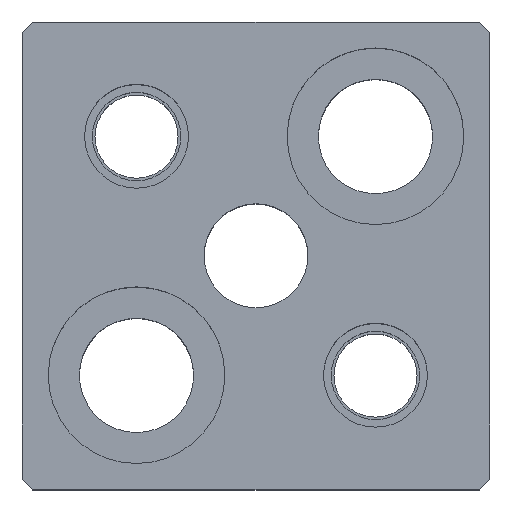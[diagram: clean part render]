
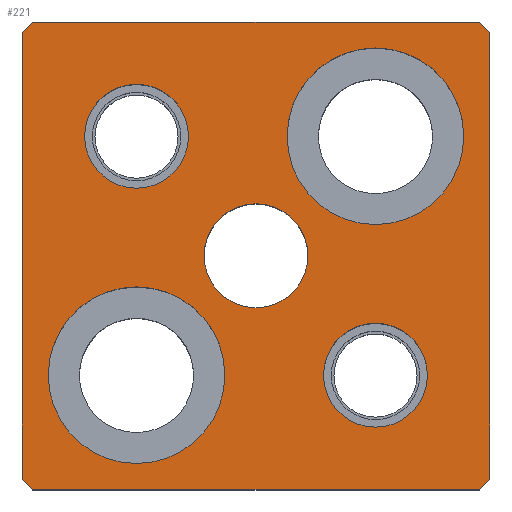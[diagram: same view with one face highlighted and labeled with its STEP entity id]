
A CAD part, top view. The second image highlights one B-rep face of the part: STEP entity #221.
In plain terms, the highlighted planar face has unit normal (0, 0, 1).
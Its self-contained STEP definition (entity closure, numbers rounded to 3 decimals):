
#103=FACE_BOUND('',#329,.T.);
#104=FACE_BOUND('',#330,.T.);
#105=FACE_BOUND('',#331,.T.);
#106=FACE_BOUND('',#332,.T.);
#107=FACE_BOUND('',#333,.T.);
#108=FACE_BOUND('',#334,.T.);
#157=CIRCLE('',#928,8.5);
#159=CIRCLE('',#931,8.5);
#161=CIRCLE('',#935,8.5);
#163=CIRCLE('',#938,8.5);
#165=CIRCLE('',#942,5.);
#166=CIRCLE('',#943,5.);
#167=CIRCLE('',#944,5.);
#168=CIRCLE('',#945,5.);
#169=CIRCLE('',#946,5.);
#170=CIRCLE('',#947,5.);
#221=ADVANCED_FACE('',(#103,#104,#105,#106,#107,#108),#260,.T.);
#260=PLANE('',#948);
#329=EDGE_LOOP('',(#469,#470,#471,#472,#473,#474,#475,#476));
#330=EDGE_LOOP('',(#477,#478));
#331=EDGE_LOOP('',(#479,#480));
#332=EDGE_LOOP('',(#481,#482));
#333=EDGE_LOOP('',(#483,#484));
#334=EDGE_LOOP('',(#485,#486));
#469=ORIENTED_EDGE('',*,*,#683,.T.);
#470=ORIENTED_EDGE('',*,*,#680,.T.);
#471=ORIENTED_EDGE('',*,*,#698,.T.);
#472=ORIENTED_EDGE('',*,*,#695,.T.);
#473=ORIENTED_EDGE('',*,*,#692,.T.);
#474=ORIENTED_EDGE('',*,*,#676,.T.);
#475=ORIENTED_EDGE('',*,*,#673,.T.);
#476=ORIENTED_EDGE('',*,*,#669,.T.);
#477=ORIENTED_EDGE('',*,*,#727,.F.);
#478=ORIENTED_EDGE('',*,*,#728,.F.);
#479=ORIENTED_EDGE('',*,*,#729,.F.);
#480=ORIENTED_EDGE('',*,*,#730,.F.);
#481=ORIENTED_EDGE('',*,*,#725,.F.);
#482=ORIENTED_EDGE('',*,*,#721,.F.);
#483=ORIENTED_EDGE('',*,*,#719,.F.);
#484=ORIENTED_EDGE('',*,*,#715,.F.);
#485=ORIENTED_EDGE('',*,*,#731,.T.);
#486=ORIENTED_EDGE('',*,*,#732,.T.);
#595=VERTEX_POINT('',#1264);
#596=VERTEX_POINT('',#1266);
#599=VERTEX_POINT('',#1274);
#601=VERTEX_POINT('',#1280);
#604=VERTEX_POINT('',#1287);
#605=VERTEX_POINT('',#1289);
#612=VERTEX_POINT('',#1312);
#614=VERTEX_POINT('',#1318);
#625=VERTEX_POINT('',#1357);
#626=VERTEX_POINT('',#1358);
#629=VERTEX_POINT('',#1370);
#630=VERTEX_POINT('',#1371);
#633=VERTEX_POINT('',#1383);
#634=VERTEX_POINT('',#1384);
#635=VERTEX_POINT('',#1387);
#636=VERTEX_POINT('',#1388);
#637=VERTEX_POINT('',#1391);
#638=VERTEX_POINT('',#1392);
#669=EDGE_CURVE('',#596,#595,#781,.T.);
#673=EDGE_CURVE('',#599,#596,#785,.T.);
#676=EDGE_CURVE('',#601,#599,#788,.T.);
#680=EDGE_CURVE('',#605,#604,#792,.T.);
#683=EDGE_CURVE('',#595,#605,#795,.T.);
#692=EDGE_CURVE('',#612,#601,#804,.T.);
#695=EDGE_CURVE('',#614,#612,#807,.T.);
#698=EDGE_CURVE('',#604,#614,#810,.T.);
#715=EDGE_CURVE('',#625,#626,#157,.T.);
#719=EDGE_CURVE('',#626,#625,#159,.T.);
#721=EDGE_CURVE('',#629,#630,#161,.T.);
#725=EDGE_CURVE('',#630,#629,#163,.T.);
#727=EDGE_CURVE('',#633,#634,#165,.T.);
#728=EDGE_CURVE('',#634,#633,#166,.T.);
#729=EDGE_CURVE('',#635,#636,#167,.T.);
#730=EDGE_CURVE('',#636,#635,#168,.T.);
#731=EDGE_CURVE('',#637,#638,#169,.T.);
#732=EDGE_CURVE('',#638,#637,#170,.T.);
#781=LINE('',#1265,#843);
#785=LINE('',#1273,#847);
#788=LINE('',#1279,#850);
#792=LINE('',#1288,#854);
#795=LINE('',#1294,#857);
#804=LINE('',#1311,#866);
#807=LINE('',#1317,#869);
#810=LINE('',#1323,#872);
#843=VECTOR('',#1005,1.);
#847=VECTOR('',#1011,1.);
#850=VECTOR('',#1016,1.);
#854=VECTOR('',#1022,1.);
#857=VECTOR('',#1027,1.);
#866=VECTOR('',#1042,1.);
#869=VECTOR('',#1047,1.);
#872=VECTOR('',#1052,1.);
#928=AXIS2_PLACEMENT_3D('',#1356,#1091,#1092);
#931=AXIS2_PLACEMENT_3D('',#1365,#1099,#1100);
#935=AXIS2_PLACEMENT_3D('',#1369,#1107,#1108);
#938=AXIS2_PLACEMENT_3D('',#1378,#1115,#1116);
#942=AXIS2_PLACEMENT_3D('',#1382,#1123,#1124);
#943=AXIS2_PLACEMENT_3D('',#1385,#1125,#1126);
#944=AXIS2_PLACEMENT_3D('',#1386,#1127,#1128);
#945=AXIS2_PLACEMENT_3D('',#1389,#1129,#1130);
#946=AXIS2_PLACEMENT_3D('',#1390,#1131,#1132);
#947=AXIS2_PLACEMENT_3D('',#1393,#1133,#1134);
#948=AXIS2_PLACEMENT_3D('',#1394,#1135,#1136);
#1005=DIRECTION('',(1.,0.,0.));
#1011=DIRECTION('',(0.707,-0.707,0.));
#1016=DIRECTION('',(0.,-1.,0.));
#1022=DIRECTION('',(0.,1.,0.));
#1027=DIRECTION('',(0.707,0.707,0.));
#1042=DIRECTION('',(-0.707,-0.707,0.));
#1047=DIRECTION('',(-1.,0.,0.));
#1052=DIRECTION('',(-0.707,0.707,0.));
#1091=DIRECTION('',(0.,0.,1.));
#1092=DIRECTION('',(-1.,0.,0.));
#1099=DIRECTION('',(0.,0.,1.));
#1100=DIRECTION('',(1.,0.,0.));
#1107=DIRECTION('',(0.,0.,1.));
#1108=DIRECTION('',(-1.,0.,0.));
#1115=DIRECTION('',(0.,0.,1.));
#1116=DIRECTION('',(1.,0.,0.));
#1123=DIRECTION('',(0.,0.,1.));
#1124=DIRECTION('',(1.,0.,0.));
#1125=DIRECTION('',(0.,0.,1.));
#1126=DIRECTION('',(-1.,0.,0.));
#1127=DIRECTION('',(0.,0.,1.));
#1128=DIRECTION('',(1.,0.,0.));
#1129=DIRECTION('',(0.,0.,1.));
#1130=DIRECTION('',(-1.,0.,0.));
#1131=DIRECTION('',(0.,0.,-1.));
#1132=DIRECTION('',(-1.,0.,0.));
#1133=DIRECTION('',(0.,0.,-1.));
#1134=DIRECTION('',(1.,0.,0.));
#1135=DIRECTION('',(0.,0.,1.));
#1136=DIRECTION('',(-1.,0.,0.));
#1264=CARTESIAN_POINT('',(21.5,-22.5,30.));
#1265=CARTESIAN_POINT('',(-21.5,-22.5,30.));
#1266=CARTESIAN_POINT('',(-21.5,-22.5,30.));
#1273=CARTESIAN_POINT('',(-21.5,-22.5,30.));
#1274=CARTESIAN_POINT('',(-22.5,-21.5,30.));
#1279=CARTESIAN_POINT('',(-22.5,21.5,30.));
#1280=CARTESIAN_POINT('',(-22.5,21.5,30.));
#1287=CARTESIAN_POINT('',(22.5,21.5,30.));
#1288=CARTESIAN_POINT('',(22.5,21.5,30.));
#1289=CARTESIAN_POINT('',(22.5,-21.5,30.));
#1294=CARTESIAN_POINT('',(22.5,-21.5,30.));
#1311=CARTESIAN_POINT('',(-22.5,21.5,30.));
#1312=CARTESIAN_POINT('',(-21.5,22.5,30.));
#1317=CARTESIAN_POINT('',(-21.5,22.5,30.));
#1318=CARTESIAN_POINT('',(21.5,22.5,30.));
#1323=CARTESIAN_POINT('',(21.5,22.5,30.));
#1356=CARTESIAN_POINT('',(-11.5,-11.5,30.));
#1357=CARTESIAN_POINT('',(-11.5,-20.,30.));
#1358=CARTESIAN_POINT('',(-11.5,-3.,30.));
#1365=CARTESIAN_POINT('',(-11.5,-11.5,30.));
#1369=CARTESIAN_POINT('',(11.5,11.5,30.));
#1370=CARTESIAN_POINT('',(11.5,3.,30.));
#1371=CARTESIAN_POINT('',(11.5,20.,30.));
#1378=CARTESIAN_POINT('',(11.5,11.5,30.));
#1382=CARTESIAN_POINT('',(-11.5,11.5,30.));
#1383=CARTESIAN_POINT('',(-11.5,16.5,30.));
#1384=CARTESIAN_POINT('',(-11.5,6.5,30.));
#1385=CARTESIAN_POINT('',(-11.5,11.5,30.));
#1386=CARTESIAN_POINT('',(11.5,-11.5,30.));
#1387=CARTESIAN_POINT('',(11.5,-6.5,30.));
#1388=CARTESIAN_POINT('',(11.5,-16.5,30.));
#1389=CARTESIAN_POINT('',(11.5,-11.5,30.));
#1390=CARTESIAN_POINT('',(0.,0.,30.));
#1391=CARTESIAN_POINT('',(0.,5.,30.));
#1392=CARTESIAN_POINT('',(0.,-5.,30.));
#1393=CARTESIAN_POINT('',(0.,0.,30.));
#1394=CARTESIAN_POINT('',(21.5,-22.5,30.));
